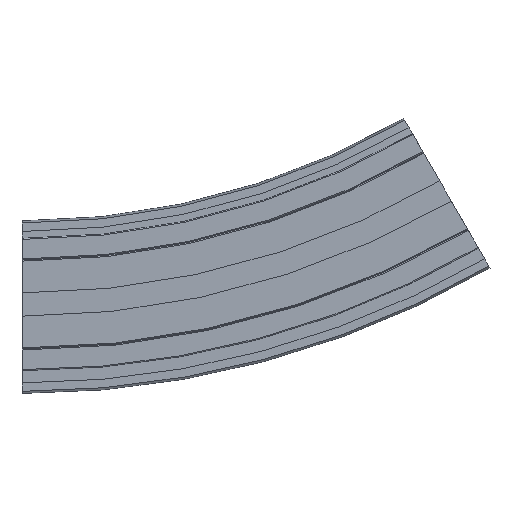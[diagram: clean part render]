
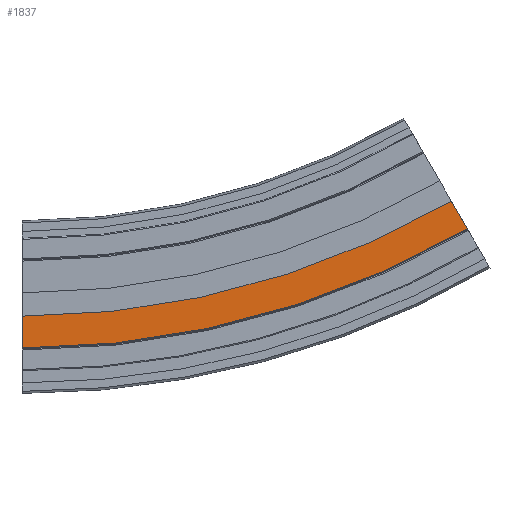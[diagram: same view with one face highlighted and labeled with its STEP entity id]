
A CAD part, front view. The second image highlights one B-rep face of the part: STEP entity #1837.
In plain terms, the highlighted planar face has unit normal (0, -1, 0).
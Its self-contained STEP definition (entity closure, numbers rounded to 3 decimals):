
#1779=CARTESIAN_POINT('',(210.25,-43.0,-3.664));
#1780=VERTEX_POINT('',#1779);
#1787=CARTESIAN_POINT('',(0.0,-43.0,-60.));
#1788=VERTEX_POINT('',#1787);
#1789=CARTESIAN_POINT('',(0.,-43.0,360.5));
#1790=DIRECTION('',(0.0,-1.0,0.0));
#1791=DIRECTION('',(-0.5,0.0,0.866));
#1792=AXIS2_PLACEMENT_3D('',#1789,#1790,#1791);
#1793=CIRCLE('',#1792,420.5);
#1794=EDGE_CURVE('',#1788,#1780,#1793,.T.);
#1806=CARTESIAN_POINT('',(0.0,-43.0,-52.5));
#1807=DIRECTION('',(0.0,-1.0,0.0));
#1808=DIRECTION('',(0.0,0.0,-1.0));
#1809=AXIS2_PLACEMENT_3D('',#1806,#1807,#1808);
#1810=PLANE('',#1809);
#1811=CARTESIAN_POINT('',(202.75,-43.0,9.327));
#1812=VERTEX_POINT('',#1811);
#1813=CARTESIAN_POINT('',(210.25,-43.0,-3.664));
#1814=DIRECTION('',(-0.5,0.0,0.866));
#1815=VECTOR('',#1814,15.);
#1816=LINE('',#1813,#1815);
#1817=EDGE_CURVE('',#1780,#1812,#1816,.T.);
#1818=ORIENTED_EDGE('',*,*,#1817,.T.);
#1819=CARTESIAN_POINT('',(0.0,-43.0,-45.));
#1820=VERTEX_POINT('',#1819);
#1821=CARTESIAN_POINT('',(0.,-43.0,360.5));
#1822=DIRECTION('',(0.0,-1.,0.0));
#1823=DIRECTION('',(-0.5,0.0,0.866));
#1824=AXIS2_PLACEMENT_3D('',#1821,#1822,#1823);
#1825=CIRCLE('',#1824,405.5);
#1826=EDGE_CURVE('',#1820,#1812,#1825,.T.);
#1827=ORIENTED_EDGE('',*,*,#1826,.F.);
#1828=CARTESIAN_POINT('',(0.0,-43.0,-45.));
#1829=DIRECTION('',(0.0,0.0,-1.0));
#1830=VECTOR('',#1829,15.0);
#1831=LINE('',#1828,#1830);
#1832=EDGE_CURVE('',#1820,#1788,#1831,.T.);
#1833=ORIENTED_EDGE('',*,*,#1832,.T.);
#1834=ORIENTED_EDGE('',*,*,#1794,.T.);
#1835=EDGE_LOOP('',(#1818,#1827,#1833,#1834));
#1836=FACE_OUTER_BOUND('',#1835,.T.);
#1837=ADVANCED_FACE('',(#1836),#1810,.T.);
